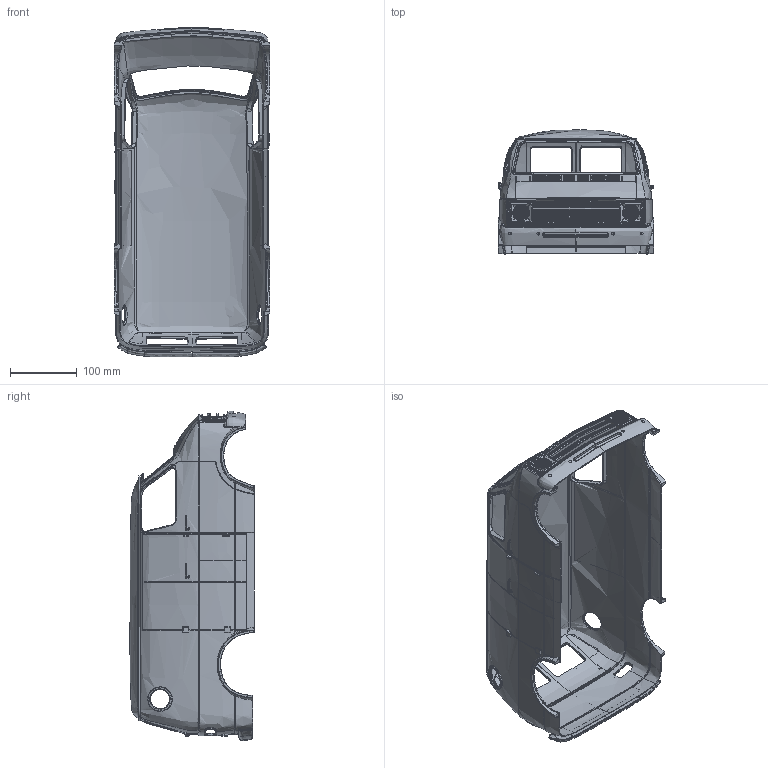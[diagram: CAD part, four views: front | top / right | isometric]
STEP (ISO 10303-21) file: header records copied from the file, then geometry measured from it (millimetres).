
FILE_DESCRIPTION(/* description */ (''),/* implementation_level */ '2;1');
FILE_NAME(/* name */ '/Users/alexbogusky/Desktop/1977 Dodge Van-ish.step',/* time_stamp */ '2019-01-01T16:28:05-10:00',/* author */ ('alex@bogusky.me'),/* organization */ (''),/* preprocessor_version */ 'ST-DEVELOPER v17.2',/* originating_system */ 'Autodesk Translation Framework v7.6.0.251',/* authorisation */ '');
FILE_SCHEMA (('AUTOMOTIVE_DESIGN { 1 0 10303 214 3 1 1 }'));
Products named in the file (1): Dodge Van
Bounding box: 234.56 x 186.67 x 496.19 mm (x, y, z)
Volume: 1918277.2 mm3; surface area: 580214.3 mm2
Topology: 7 solids, 11 shells, 2476 faces, 6967 edges, 4559 vertices
Faces by surface type: bspline 1333, plane 799, cylinder 193, sphere 123, torus 20, cone 8
Full cylindrical faces by diameter (mm): 8.127 x2, 21 x2, 21.4 x2, 22 x3, 31 x2
Entity records: 224111 total; most frequent: CARTESIAN_POINT 170773, ORIENTED_EDGE 13910, EDGE_CURVE 6955, DIRECTION 6677, VERTEX_POINT 4561, B_SPLINE_CURVE_WITH_KNOTS 4026, AXIS2_PLACEMENT_3D 2633, EDGE_LOOP 2627
